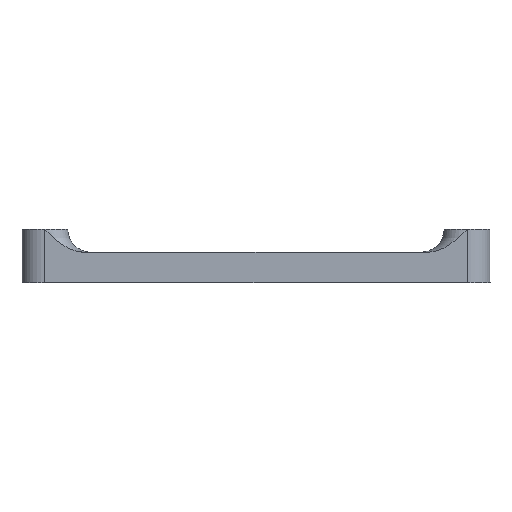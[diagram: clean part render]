
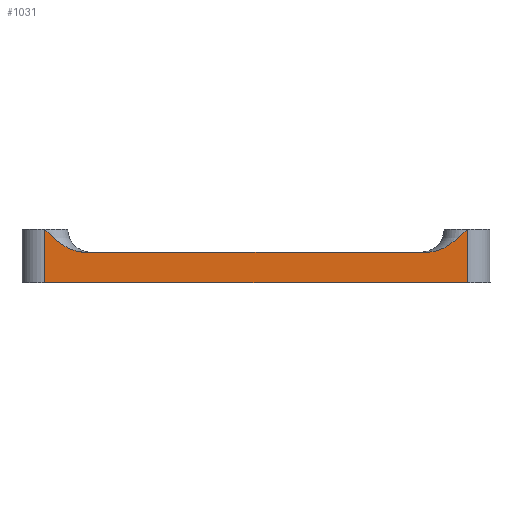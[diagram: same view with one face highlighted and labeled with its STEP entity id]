
A CAD part, left-side view. The second image highlights one B-rep face of the part: STEP entity #1031.
In plain terms, the highlighted planar face has unit normal (-1, 0, 0).
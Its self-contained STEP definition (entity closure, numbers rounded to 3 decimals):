
#58=PLANE('',#1166);
#59=LINE('',#1555,#125);
#66=LINE('',#1599,#132);
#81=LINE('',#1894,#147);
#124=LINE('',#2041,#190);
#125=VECTOR('',#1178,10.);
#132=VECTOR('',#1219,10.);
#147=VECTOR('',#1282,10.);
#190=VECTOR('',#1475,10.);
#273=FACE_OUTER_BOUND('',#349,.T.);
#349=EDGE_LOOP('',(#963,#964,#965,#966,#967,#968));
#416=B_SPLINE_CURVE_WITH_KNOTS('',3,(#1482,#1483,#1484,#1485,#1486,#1487,
#1488,#1489,#1490,#1491,#1492,#1493,#1494,#1495,#1496,#1497,#1498,#1499,
#1500,#1501,#1502,#1503,#1504,#1505,#1506,#1507,#1508,#1509,#1510),
 .UNSPECIFIED.,.F.,.F.,(4,2,2,2,2,2,2,2,2,2,2,2,3,4),(3.65,
3.713,3.776,3.85,3.924,4.074,
4.152,4.18,4.209,4.224,4.229,
4.231,4.234,4.234),.UNSPECIFIED.);
#430=B_SPLINE_CURVE_WITH_KNOTS('',3,(#1797,#1798,#1799,#1800,#1801,#1802,
#1803,#1804,#1805,#1806,#1807,#1808,#1809,#1810,#1811,#1812,#1813,#1814,
#1815,#1816,#1817,#1818,#1819,#1820,#1821,#1822),.UNSPECIFIED.,.F.,.F.,
(4,2,2,2,2,2,2,2,2,2,2,2,4),(0.,0.003,0.005,
0.01,0.024,0.053,0.082,
0.159,0.309,0.383,0.458,
0.521,0.584),.UNSPECIFIED.);
#433=VERTEX_POINT('',#1480);
#434=VERTEX_POINT('',#1481);
#439=VERTEX_POINT('',#1554);
#459=VERTEX_POINT('',#1597);
#480=VERTEX_POINT('',#1795);
#499=VERTEX_POINT('',#1893);
#529=EDGE_CURVE('',#433,#434,#416,.F.);
#535=EDGE_CURVE('',#439,#433,#59,.T.);
#558=EDGE_CURVE('',#459,#434,#66,.T.);
#582=EDGE_CURVE('',#480,#459,#430,.T.);
#605=EDGE_CURVE('',#439,#499,#81,.T.);
#676=EDGE_CURVE('',#499,#480,#124,.T.);
#963=ORIENTED_EDGE('',*,*,#605,.F.);
#964=ORIENTED_EDGE('',*,*,#535,.T.);
#965=ORIENTED_EDGE('',*,*,#529,.T.);
#966=ORIENTED_EDGE('',*,*,#558,.F.);
#967=ORIENTED_EDGE('',*,*,#582,.F.);
#968=ORIENTED_EDGE('',*,*,#676,.F.);
#1031=ADVANCED_FACE('',(#273),#58,.T.);
#1166=AXIS2_PLACEMENT_3D('',#2040,#1473,#1474);
#1178=DIRECTION('',(0.,0.,1.));
#1219=DIRECTION('',(0.,-1.,0.));
#1282=DIRECTION('',(0.,1.,0.));
#1473=DIRECTION('center_axis',(-1.,0.,0.));
#1474=DIRECTION('ref_axis',(0.,-1.,0.));
#1475=DIRECTION('',(0.,0.,1.));
#1480=CARTESIAN_POINT('',(-0.759,2.709,5.193));
#1481=CARTESIAN_POINT('',(-0.759,7.962,2.193));
#1482=CARTESIAN_POINT('Ctrl Pts',(-0.759,7.962,2.193));
#1483=CARTESIAN_POINT('Ctrl Pts',(-0.759,7.752,2.193));
#1484=CARTESIAN_POINT('Ctrl Pts',(-0.759,7.522,2.21));
#1485=CARTESIAN_POINT('Ctrl Pts',(-0.759,7.067,2.283));
#1486=CARTESIAN_POINT('Ctrl Pts',(-0.759,6.842,2.337));
#1487=CARTESIAN_POINT('Ctrl Pts',(-0.759,6.405,2.472));
#1488=CARTESIAN_POINT('Ctrl Pts',(-0.759,6.152,2.571));
#1489=CARTESIAN_POINT('Ctrl Pts',(-0.759,5.663,2.803));
#1490=CARTESIAN_POINT('Ctrl Pts',(-0.759,5.427,2.937));
#1491=CARTESIAN_POINT('Ctrl Pts',(-0.759,4.794,3.336));
#1492=CARTESIAN_POINT('Ctrl Pts',(-0.759,4.323,3.708));
#1493=CARTESIAN_POINT('Ctrl Pts',(-0.759,3.757,4.213));
#1494=CARTESIAN_POINT('Ctrl Pts',(-0.759,3.532,4.425));
#1495=CARTESIAN_POINT('Ctrl Pts',(-0.759,3.278,4.671));
#1496=CARTESIAN_POINT('Ctrl Pts',(-0.759,3.197,4.751));
#1497=CARTESIAN_POINT('Ctrl Pts',(-0.759,3.061,4.886));
#1498=CARTESIAN_POINT('Ctrl Pts',(-0.759,2.979,4.967));
#1499=CARTESIAN_POINT('Ctrl Pts',(-0.759,2.876,5.068));
#1500=CARTESIAN_POINT('Ctrl Pts',(-0.759,2.833,5.109));
#1501=CARTESIAN_POINT('Ctrl Pts',(-0.759,2.785,5.152));
#1502=CARTESIAN_POINT('Ctrl Pts',(-0.759,2.77,5.164));
#1503=CARTESIAN_POINT('Ctrl Pts',(-0.759,2.752,5.177));
#1504=CARTESIAN_POINT('Ctrl Pts',(-0.759,2.745,5.181));
#1505=CARTESIAN_POINT('Ctrl Pts',(-0.759,2.73,5.189));
#1506=CARTESIAN_POINT('Ctrl Pts',(-0.759,2.719,5.193));
#1507=CARTESIAN_POINT('Ctrl Pts',(-0.759,2.709,5.193));
#1508=CARTESIAN_POINT('Ctrl Pts',(-0.759,2.709,5.193));
#1509=CARTESIAN_POINT('Ctrl Pts',(-0.759,2.709,5.193));
#1510=CARTESIAN_POINT('Ctrl Pts',(-0.759,2.709,5.193));
#1554=CARTESIAN_POINT('',(-0.759,2.709,-1.807));
#1555=CARTESIAN_POINT('',(-0.759,2.709,-1.807));
#1597=CARTESIAN_POINT('',(-0.759,53.156,2.193));
#1599=CARTESIAN_POINT('',(-0.759,2.709,2.193));
#1795=CARTESIAN_POINT('',(-0.759,58.409,5.193));
#1797=CARTESIAN_POINT('Ctrl Pts',(-0.759,58.409,5.193));
#1798=CARTESIAN_POINT('Ctrl Pts',(-0.759,58.399,5.193));
#1799=CARTESIAN_POINT('Ctrl Pts',(-0.759,58.387,5.189));
#1800=CARTESIAN_POINT('Ctrl Pts',(-0.759,58.373,5.181));
#1801=CARTESIAN_POINT('Ctrl Pts',(-0.759,58.366,5.177));
#1802=CARTESIAN_POINT('Ctrl Pts',(-0.759,58.348,5.164));
#1803=CARTESIAN_POINT('Ctrl Pts',(-0.759,58.333,5.152));
#1804=CARTESIAN_POINT('Ctrl Pts',(-0.759,58.285,5.109));
#1805=CARTESIAN_POINT('Ctrl Pts',(-0.759,58.242,5.068));
#1806=CARTESIAN_POINT('Ctrl Pts',(-0.759,58.139,4.967));
#1807=CARTESIAN_POINT('Ctrl Pts',(-0.759,58.057,4.886));
#1808=CARTESIAN_POINT('Ctrl Pts',(-0.759,57.921,4.751));
#1809=CARTESIAN_POINT('Ctrl Pts',(-0.759,57.84,4.671));
#1810=CARTESIAN_POINT('Ctrl Pts',(-0.759,57.586,4.425));
#1811=CARTESIAN_POINT('Ctrl Pts',(-0.759,57.361,4.213));
#1812=CARTESIAN_POINT('Ctrl Pts',(-0.759,56.795,3.708));
#1813=CARTESIAN_POINT('Ctrl Pts',(-0.759,56.324,3.336));
#1814=CARTESIAN_POINT('Ctrl Pts',(-0.759,55.691,2.937));
#1815=CARTESIAN_POINT('Ctrl Pts',(-0.759,55.455,2.803));
#1816=CARTESIAN_POINT('Ctrl Pts',(-0.759,54.966,2.571));
#1817=CARTESIAN_POINT('Ctrl Pts',(-0.759,54.713,2.472));
#1818=CARTESIAN_POINT('Ctrl Pts',(-0.759,54.276,2.337));
#1819=CARTESIAN_POINT('Ctrl Pts',(-0.759,54.051,2.283));
#1820=CARTESIAN_POINT('Ctrl Pts',(-0.759,53.596,2.21));
#1821=CARTESIAN_POINT('Ctrl Pts',(-0.759,53.366,2.193));
#1822=CARTESIAN_POINT('Ctrl Pts',(-0.759,53.156,2.193));
#1893=CARTESIAN_POINT('',(-0.759,58.409,-1.807));
#1894=CARTESIAN_POINT('',(-0.759,2.709,-1.807));
#2040=CARTESIAN_POINT('Origin',(-0.759,58.409,-1.807));
#2041=CARTESIAN_POINT('',(-0.759,58.409,-1.807));
